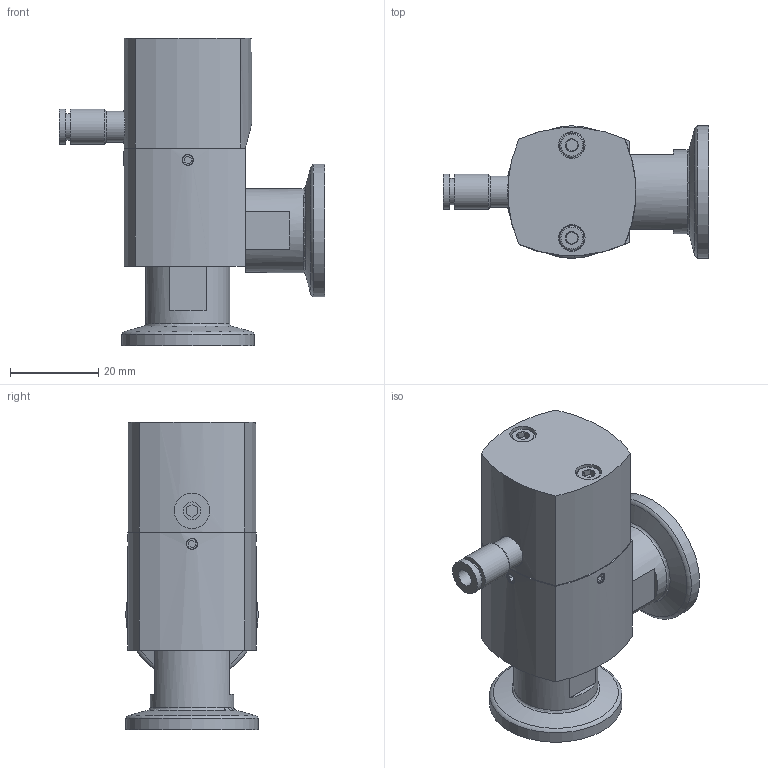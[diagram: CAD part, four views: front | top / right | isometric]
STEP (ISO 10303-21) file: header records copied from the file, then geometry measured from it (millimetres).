
FILE_DESCRIPTION(/* description */ (''),/* implementation_level */ '2;1');
FILE_NAME(/* name */ '1706529088_203.stp',/* time_stamp */ '2017-01-26T13:43:51+01:00',/* author */ (''),/* organization */ (''),/* preprocessor_version */ 'ST-DEVELOPER v15',/* originating_system */ 'SIEMENS PLM Software NX 9.0',/* authorisation */ '');
FILE_SCHEMA (('AP203_CONFIGURATION_CONTROLLED_3D_DESIGN_OF_MECHANICAL_PARTS_AND_ASSEMBLIES_MIM_LF { 1 0 10303 403 2 1 2}'));
Length unit declared in the file: millimetre
Products named in the file (1): 589070
Bounding box: 60.1 x 30 x 69.5 mm (x, y, z)
Volume: 208.9 mm3; surface area: 18971.1 mm2
Topology: 8 solids, 9 shells, 251 faces, 585 edges, 378 vertices
Faces by surface type: plane 104, cylinder 65, cone 49, torus 32, bspline 1
Full cylindrical faces by diameter (mm): 1 x1, 1.2 x2, 2.459 x5, 3 x5, 3.4 x2, 4 x1, 4.1 x1, 4.9 x2, 5.5 x2, 6 x4, 6.45 x2, 7 x1, 7.5 x1, 8 x4, 9.2 x1, 9.5 x1, 12.2 x2, 14 x4, 14.5 x4, 15 x2, 16 x1, 18 x2, 19 x4, 24 x2, 30 x2
Entity records: 6832 total; most frequent: CARTESIAN_POINT 1653, DIRECTION 1074, ORIENTED_EDGE 784, AXIS2_PLACEMENT_3D 459, EDGE_LOOP 432, EDGE_CURVE 392, FACE_BOUND 355, VERTEX_POINT 316
